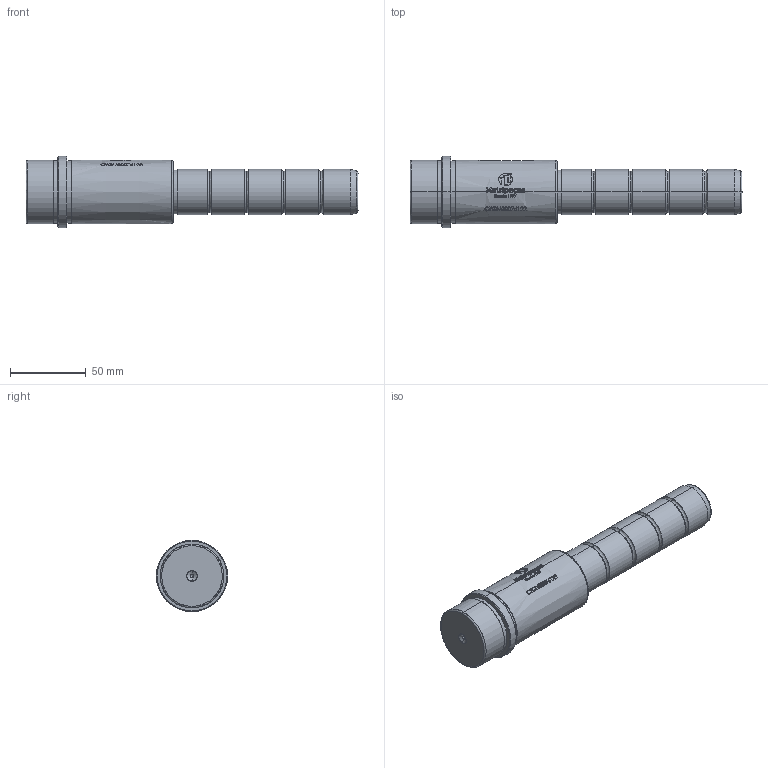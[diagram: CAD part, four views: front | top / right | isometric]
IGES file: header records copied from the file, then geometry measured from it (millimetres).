
Start section: SolidWorks IGES file using analytic representation for surfaces
Global section: file name: E:\1.TRIVECTOR\Clientes\MATRIPEÇAS\PEÇAS_CATALOGO_SITE\5.CFGM - COLUNA PLACA FLUTUANTE GUIADA E31 (CATÁLOGO)\CFGM30076122.IGS; native system: SolidWorks 2024; preprocessor: SolidWorks 2024; author: Gabriel Techio; date: 260909.114311; units: millimetre
Bounding box: 219 x 47 x 47 mm (x, y, z)
Surface area: 28507.3 mm2 (no closed solid volume)
Topology: 0 solids, 0 shells, 538 faces, 6080 edges, 6076 vertices
Faces by surface type: bspline 424, revolution 114
